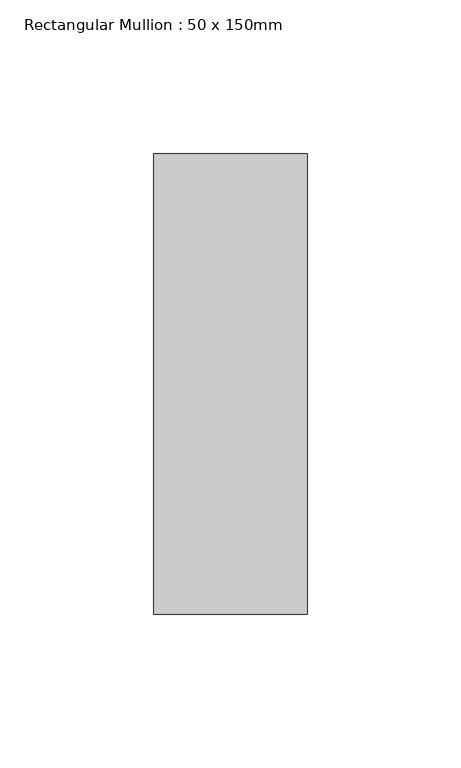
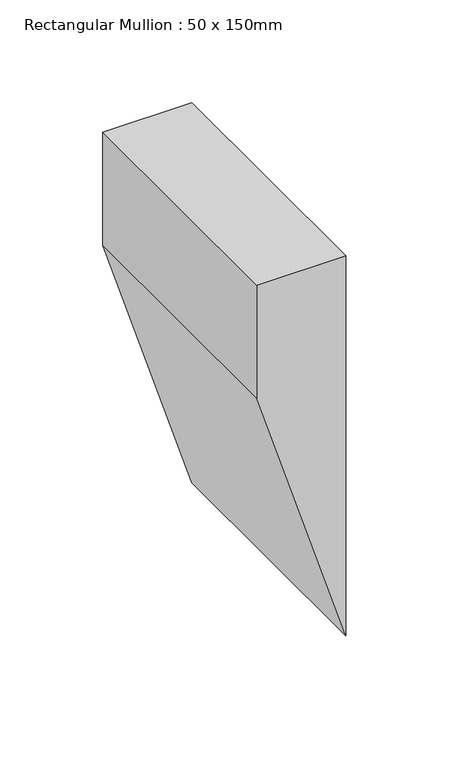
"""IFC4 building model written with IfcOpenShell, lengths in millimetres: member geometry, Rectangular Mullion : 50 x 150mm."""

from ifc_helpers import new_model, si_unit, frame, origin, place, context, project, spatial, polyline, outline, extrude, source, transform, mapped, element, save


def rectangular_mullion_50_x_150mm_4b235bbe(model_context):
    return source(origin(), model_context, "Body", "SweptSolid", [
        extrude(outline(polyline([(0.0, 0.0), (0.0, -50.0), (-67.0177343, -50.0), (-225.5228525, 0.0), (0.0, 0.0)])), frame((0.0, -75.0, 0.0), z_axis=(0.0, 1.0, 0.0), x_axis=(0.0, 0.0, 1.0)), (0.0, 0.0, 1.0), 150.0),
    ])


if __name__ == "__main__":
    model = new_model("IFC4")
    model_context = context("Model", 3, world=origin())
    ifc_project = project(units=[si_unit("LENGTHUNIT", "METRE", prefix="MILLI")], contexts=[model_context])
    site = spatial("IfcSite", under=ifc_project)
    building = spatial("IfcBuilding", under=site)
    placement = place(None, origin())
    rectangular_mullion_50_x_150mm_shape = rectangular_mullion_50_x_150mm_4b235bbe(model_context)
    element("IfcMember", 1, ObjectType="Rectangular Mullion : 50 x 150mm", at=placement, inside=building, context=model_context, shape_type="MappedRepresentation", body=[
        mapped(rectangular_mullion_50_x_150mm_shape, transform((0.0, 0.0, 0.0), x_axis=(1.0, 0.0, 0.0), y_axis=(0.0, 1.0, 0.0), z_axis=(0.0, 0.0, 1.0))),
    ])
    save(model, "model.ifc")
